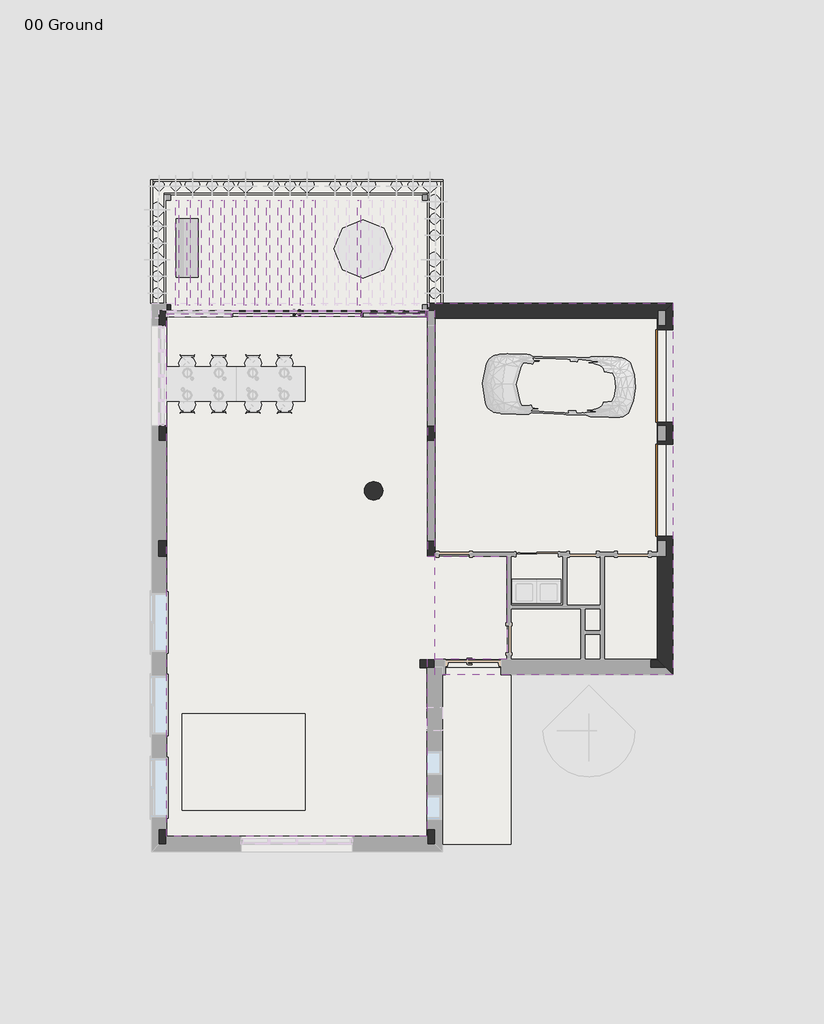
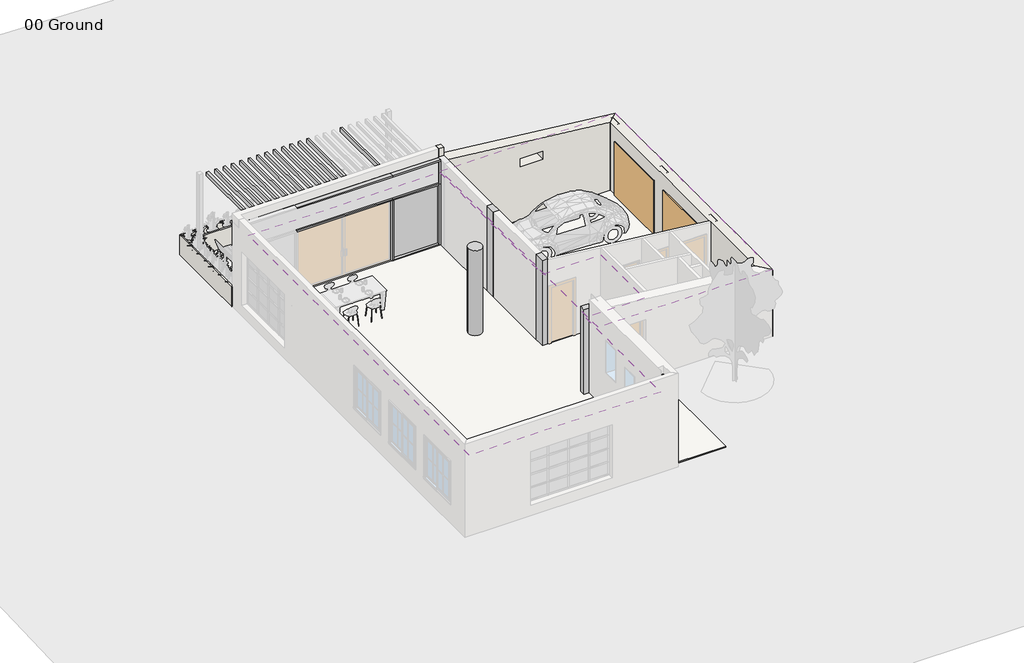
# One storey, part 3 of 4: 14 beams, 12 columns, 8 members, 8 walls, 7 slabs, 2 doors, 1 covering, 1 plate, 1 roof.
"""IFC4 building model written with IfcOpenShell, lengths in millimetres."""

from ifc_helpers import new_model, si_unit, point, frame, frame_2d, origin, origin_with_axes, place, context, project, spatial, polyline, circle_curve, trimmed, segment, composite_curve, outline, extrude, faceted_brep, transform, mapped, element, save
from ifc_brep_helpers import plane_surface, cylinder_surface, advanced_brep
from components import m_glulam_southern_pine_76x140_5a5c9036, m_glulam_southern_pine_column_127x140_dd4b0262, m_door_overhead_sectional_2400_x_2000mm_9fe30cd6, rectangular_mullion_50_x_150mm_b8963a12, rectangular_mullion_50_x_150mm_ca64fab8, rectangular_mullion_50_x_150mm_c8600b0d, rectangular_mullion_50_x_150mm_7893aaae, rectangular_mullion_50_x_150mm_57f910c3, rectangular_mullion_50_x_150mm_ec782ea6, rectangular_mullion_50_x_150mm_8753ce05, rectangular_mullion_50_x_150mm_324a6438, system_panel_glazed_18425fd7

model = new_model("IFC4")

# Units and contexts
model_context = context("Model", 3, world=origin())
ifc_project = project(units=[si_unit("LENGTHUNIT", "METRE", prefix="MILLI")], contexts=[model_context])

# Site, building, storey
site = spatial("IfcSite", under=ifc_project)
building = spatial("IfcBuilding", under=site)
storey = spatial("IfcBuildingStorey", under=building, Name="00 Ground", Elevation=0.0)

# Beams
placement = place(None, origin())
m_glulam_southern_pine_76x140_shape = m_glulam_southern_pine_76x140_5a5c9036(model_context)
element("IfcBeam", 1, ObjectType="M_Glulam-Southern Pine : 76X140", at=placement, inside=storey, context=model_context, shape_type="MappedRepresentation", body=[
    mapped(m_glulam_southern_pine_76x140_shape, transform((-6656.0190608, 7837.2898352, 3130.0), x_axis=(0.0, -1.0, 0.0), y_axis=(1.0, 0.0, 0.0), z_axis=(0.0, 0.0, 1.0))),
])
element("IfcBeam", 2, ObjectType="M_Glulam-Southern Pine : 76X140", at=placement, inside=storey, context=model_context, shape_type="MappedRepresentation", body=[
    mapped(m_glulam_southern_pine_76x140_shape, transform((-6952.3234086, 7837.2898352, 3130.0), x_axis=(0.0, -1.0, 0.0), y_axis=(1.0, 0.0, 0.0), z_axis=(0.0, 0.0, 1.0))),
])
element("IfcBeam", 3, ObjectType="M_Glulam-Southern Pine : 76X140", at=placement, inside=storey, context=model_context, shape_type="MappedRepresentation", body=[
    mapped(m_glulam_southern_pine_76x140_shape, transform((-7248.6277565, 7837.2898352, 3130.0), x_axis=(0.0, -1.0, 0.0), y_axis=(1.0, 0.0, 0.0), z_axis=(0.0, 0.0, 1.0))),
])
element("IfcBeam", 4, ObjectType="M_Glulam-Southern Pine : 76X140", at=placement, inside=storey, context=model_context, shape_type="MappedRepresentation", body=[
    mapped(m_glulam_southern_pine_76x140_shape, transform((-7544.9321043, 7837.2898352, 3130.0), x_axis=(0.0, -1.0, 0.0), y_axis=(1.0, 0.0, 0.0), z_axis=(0.0, 0.0, 1.0))),
])
element("IfcBeam", 5, ObjectType="M_Glulam-Southern Pine : 76X140", at=placement, inside=storey, context=model_context, shape_type="MappedRepresentation", body=[
    mapped(m_glulam_southern_pine_76x140_shape, transform((-7841.2364521, 7837.2898352, 3130.0), x_axis=(0.0, -1.0, 0.0), y_axis=(1.0, 0.0, 0.0), z_axis=(0.0, 0.0, 1.0))),
])
element("IfcBeam", 6, ObjectType="M_Glulam-Southern Pine : 76X140", at=placement, inside=storey, context=model_context, shape_type="MappedRepresentation", body=[
    mapped(m_glulam_southern_pine_76x140_shape, transform((-3100.3668869, 7837.2898352, 3130.0), x_axis=(0.0, -1.0, 0.0), y_axis=(1.0, 0.0, 0.0), z_axis=(0.0, 0.0, 1.0))),
])
element("IfcBeam", 7, ObjectType="M_Glulam-Southern Pine : 76X140", at=placement, inside=storey, context=model_context, shape_type="MappedRepresentation", body=[
    mapped(m_glulam_southern_pine_76x140_shape, transform((-4285.5842782, 7837.2898352, 3130.0), x_axis=(0.0, -1.0, 0.0), y_axis=(1.0, 0.0, 0.0), z_axis=(0.0, 0.0, 1.0))),
])
element("IfcBeam", 8, ObjectType="M_Glulam-Southern Pine : 76X140", at=placement, inside=storey, context=model_context, shape_type="MappedRepresentation", body=[
    mapped(m_glulam_southern_pine_76x140_shape, transform((-4581.888626, 7837.2898352, 3130.0), x_axis=(0.0, -1.0, 0.0), y_axis=(1.0, 0.0, 0.0), z_axis=(0.0, 0.0, 1.0))),
])
element("IfcBeam", 9, ObjectType="M_Glulam-Southern Pine : 76X140", at=placement, inside=storey, context=model_context, shape_type="MappedRepresentation", body=[
    mapped(m_glulam_southern_pine_76x140_shape, transform((-4878.1929738, 7837.2898352, 3130.0), x_axis=(0.0, -1.0, 0.0), y_axis=(1.0, 0.0, 0.0), z_axis=(0.0, 0.0, 1.0))),
])
element("IfcBeam", 10, ObjectType="M_Glulam-Southern Pine : 76X140", at=placement, inside=storey, context=model_context, shape_type="MappedRepresentation", body=[
    mapped(m_glulam_southern_pine_76x140_shape, transform((-5174.4973217, 7837.2898352, 3130.0), x_axis=(0.0, -1.0, 0.0), y_axis=(1.0, 0.0, 0.0), z_axis=(0.0, 0.0, 1.0))),
])
element("IfcBeam", 11, ObjectType="M_Glulam-Southern Pine : 76X140", at=placement, inside=storey, context=model_context, shape_type="MappedRepresentation", body=[
    mapped(m_glulam_southern_pine_76x140_shape, transform((-5470.8016695, 7837.2898352, 3130.0), x_axis=(0.0, -1.0, 0.0), y_axis=(1.0, 0.0, 0.0), z_axis=(0.0, 0.0, 1.0))),
])
element("IfcBeam", 12, ObjectType="M_Glulam-Southern Pine : 76X140", at=placement, inside=storey, context=model_context, shape_type="MappedRepresentation", body=[
    mapped(m_glulam_southern_pine_76x140_shape, transform((-5767.1060173, 7837.2898352, 3130.0), x_axis=(0.0, -1.0, 0.0), y_axis=(1.0, 0.0, 0.0), z_axis=(0.0, 0.0, 1.0))),
])
element("IfcBeam", 13, ObjectType="M_Glulam-Southern Pine : 76X140", at=placement, inside=storey, context=model_context, shape_type="MappedRepresentation", body=[
    mapped(m_glulam_southern_pine_76x140_shape, transform((-6063.4103652, 7837.2898352, 3130.0), x_axis=(0.0, -1.0, 0.0), y_axis=(1.0, 0.0, 0.0), z_axis=(0.0, 0.0, 1.0))),
])
element("IfcBeam", 14, ObjectType="M_Glulam-Southern Pine : 76X140", at=placement, inside=storey, context=model_context, shape_type="MappedRepresentation", body=[
    mapped(m_glulam_southern_pine_76x140_shape, transform((-6359.714713, 7837.2898352, 3130.0), x_axis=(0.0, -1.0, 0.0), y_axis=(1.0, 0.0, 0.0), z_axis=(0.0, 0.0, 1.0))),
])

# Columns
element("IfcColumn", 15, ObjectType="M_Concrete-Rectangular-Column : 200 x 400mm", at=placement, inside=storey, context=model_context, shape_type="Brep", body=[
    faceted_brep([(-8122.5407999, 6337.2898352, 0.0), (-8122.5407999, 5937.2898352, 0.0), (-8322.5407999, 5937.2898352, 0.0), (-8322.5407999, 6337.2898352, 0.0), (-8122.5407999, 6337.2898352, 3200.0), (-8122.5407999, 5937.2898352, 3200.0), (-8122.5407999, 5937.2898352, 2400.0), (-8122.5407999, 5937.2898352, 400.0), (-8322.5407999, 5937.2898352, 3200.0), (-8322.5407999, 5937.2898352, 2400.0), (-8322.5407999, 5937.2898352, 400.0), (-8322.5407999, 6124.2898352, 3200.0), (-8322.5407999, 6337.2898352, 3200.0)], [[[0, 1, 2, 3]], [[1, 0, 4, 5, 6, 7]], [[2, 1, 7, 6, 5, 8, 9, 10]], [[3, 2, 10, 9, 8, 11, 12]], [[0, 3, 12, 4]], [[5, 4, 12, 11, 8]]]),
])
element("IfcColumn", 16, ObjectType="M_Concrete-Rectangular-Column : 200 x 400mm", at=placement, inside=storey, context=model_context, shape_type="Brep", body=[
    faceted_brep([(-8122.5407999, 3337.2898352, 0.0), (-8122.5407999, 2937.2898352, 0.0), (-8322.5407999, 2937.2898352, 0.0), (-8322.5407999, 3337.2898352, 0.0), (-8122.5407999, 3337.2898352, 400.0), (-8122.5407999, 3337.2898352, 2400.0), (-8122.5407999, 3337.2898352, 3200.0), (-8122.5407999, 2937.2898352, 3200.0), (-8322.5407999, 2937.2898352, 3200.0), (-8322.5407999, 3337.2898352, 3200.0), (-8322.5407999, 3337.2898352, 2400.0), (-8322.5407999, 3337.2898352, 400.0)], [[[0, 1, 2, 3]], [[1, 0, 4, 5, 6, 7]], [[2, 1, 7, 8]], [[3, 2, 8, 9, 10, 11]], [[0, 3, 11, 10, 9, 6, 5, 4]], [[7, 6, 9, 8]]]),
])
element("IfcColumn", 17, ObjectType="M_Concrete-Rectangular-Column : 200 x 400mm", at=placement, inside=storey, context=model_context, shape_type="SweptSolid", body=[
    extrude(outline(polyline([(-8122.5407999, 337.2898352), (-8122.5407999, -62.7101648), (-8322.5407999, -62.7101648), (-8322.5407999, 337.2898352), (-8122.5407999, 337.2898352)])), origin_with_axes(), (0.0, 0.0, 1.0), 3200.0),
])
element("IfcColumn", 18, ObjectType="M_Concrete-Rectangular-Column : 200 x 400mm", at=placement, inside=storey, context=model_context, shape_type="SweptSolid", body=[
    extrude(outline(polyline([(-8122.5407999, -2662.7101648), (-8122.5407999, -3062.7101648), (-8322.5407999, -3062.7101648), (-8322.5407999, -2662.7101648), (-8122.5407999, -2662.7101648)])), origin_with_axes(), (0.0, 0.0, 1.0), 3200.0),
])
element("IfcColumn", 19, ObjectType="M_Concrete-Rectangular-Column : 200 x 400mm", at=placement, inside=storey, context=model_context, shape_type="SweptSolid", body=[
    extrude(outline(polyline([(-1122.5407999, 337.2898352), (-1122.5407999, -62.7101648), (-1322.5407999, -62.7101648), (-1322.5407999, 337.2898352), (-1122.5407999, 337.2898352)])), origin_with_axes(), (0.0, 0.0, 1.0), 3200.0),
])
element("IfcColumn", 20, ObjectType="M_Concrete-Rectangular-Column : 200 x 400mm", at=placement, inside=storey, context=model_context, shape_type="Brep", body=[
    faceted_brep([(-1522.5407999, -2762.7101648, 0.0), (-1122.5407999, -2762.7101648, 0.0), (-1122.5407999, -2948.7101648, 0.0), (-1122.5407999, -2962.7101648, 0.0), (-1335.5407999, -2962.7101648, 0.0), (-1522.5407999, -2962.7101648, 0.0), (-1522.5407999, -2762.7101648, 3200.0), (-1122.5407999, -2762.7101648, 3200.0), (-1122.5407999, -2962.7101648, 3200.0), (-1522.5407999, -2962.7101648, 3200.0)], [[[0, 1, 2, 3, 4, 5]], [[1, 0, 6, 7]], [[3, 2, 1, 7, 8]], [[5, 4, 3, 8, 9]], [[0, 5, 9, 6]], [[7, 6, 9, 8]]]),
])
element("IfcColumn", 21, ObjectType="M_Concrete-Rectangular-Column : 200 x 400mm", at=placement, inside=storey, context=model_context, shape_type="SweptSolid", body=[
    extrude(outline(polyline([(-1122.5407999, 3337.2898352), (-1122.5407999, 2937.2898352), (-1322.5407999, 2937.2898352), (-1322.5407999, 3337.2898352), (-1122.5407999, 3337.2898352)])), origin_with_axes(), (0.0, 0.0, 1.0), 3200.0),
])
element("IfcColumn", 22, ObjectType="M_Concrete-Rectangular-Column : 200 x 400mm", at=placement, inside=storey, context=model_context, shape_type="Brep", body=[
    faceted_brep([(4477.4592001, -2762.7101648, 0.0), (4677.4592001, -2762.7101648, 0.0), (4877.4592001, -2762.7101648, 0.0), (4877.4592001, -2962.7101648, 0.0), (4477.4592001, -2962.7101648, 0.0), (4477.4592001, -2762.7101648, 2519.7413096), (4677.4592001, -2762.7101648, 2519.7413096), (4877.4592001, -2762.7101648, 2519.7413096), (4877.4592001, -2962.7101648, 2519.7413096), (4477.4592001, -2962.7101648, 2519.7413096)], [[[0, 1, 2, 3, 4]], [[5, 6, 7, 2, 1, 0]], [[7, 8, 3, 2]], [[8, 9, 4, 3]], [[9, 5, 0, 4]], [[5, 9, 8, 7, 6]]]),
])
element("IfcColumn", 23, ObjectType="M_Concrete-Rectangular-Column : 200 x 400mm", at=placement, inside=storey, context=model_context, shape_type="Brep", body=[
    faceted_brep([(-8122.5407999, -7162.7101648, 0.0), (-8122.5407999, -7362.7101648, 0.0), (-8122.5407999, -7562.7101648, 0.0), (-8322.5407999, -7562.7101648, 0.0), (-8322.5407999, -7162.7101648, 0.0), (-8122.5407999, -7162.7101648, 3200.0), (-8122.5407999, -7362.7101648, 3200.0), (-8122.5407999, -7562.7101648, 3200.0), (-8322.5407999, -7562.7101648, 3200.0), (-8322.5407999, -7162.7101648, 3200.0)], [[[0, 1, 2, 3, 4]], [[2, 1, 0, 5, 6, 7]], [[3, 2, 7, 8]], [[4, 3, 8, 9]], [[0, 4, 9, 5]], [[7, 6, 5, 9, 8]]]),
])
element("IfcColumn", 24, ObjectType="M_Concrete-Rectangular-Column : 200 x 400mm", at=placement, inside=storey, context=model_context, shape_type="Brep", body=[
    faceted_brep([(-1122.5407999, -7162.7101648, 0.0), (-1122.5407999, -7562.7101648, 0.0), (-1322.5407999, -7562.7101648, 0.0), (-1322.5407999, -7362.7101648, 0.0), (-1322.5407999, -7162.7101648, 0.0), (-1122.5407999, -7162.7101648, 3200.0), (-1122.5407999, -7562.7101648, 3200.0), (-1322.5407999, -7562.7101648, 3200.0), (-1322.5407999, -7362.7101648, 3200.0), (-1322.5407999, -7162.7101648, 3200.0)], [[[0, 1, 2, 3, 4]], [[1, 0, 5, 6]], [[2, 1, 6, 7]], [[4, 3, 2, 7, 8, 9]], [[0, 4, 9, 5]], [[6, 5, 9, 8, 7]]]),
])
element("IfcColumn", 25, ObjectType="M_Concrete-Round-Column : 480mm", at=placement, inside=storey, context=model_context, shape_type="AdvancedBrep", body=[
    advanced_brep(
    [(-2962.5407999, 1637.2898352, 0.0), (-2482.5407999, 1637.2898352, 0.0), (-2962.5407999, 1637.2898352, 3200.0), (-2482.5407999, 1637.2898352, 3200.0), (-2722.1476319, 1397.2901573, 3200.0)],
    [
        (0, 1, circle_curve(frame((-2722.5407999, 1637.2898352, 0.0), z_axis=(0.0, 0.0, -1.0), x_axis=(1.0, 0.0, 0.0)), 240.0)),
        (1, 0, circle_curve(frame((-2722.5407999, 1637.2898352, 0.0), z_axis=(0.0, 0.0, -1.0), x_axis=(1.0, 0.0, 0.0)), 240.0)),
        (0, 2),
        (2, 3, circle_curve(frame((-2722.5407999, 1637.2898352, 3200.0), z_axis=(0.0, 0.0, -1.0), x_axis=(1.0, 0.0, 0.0)), 240.0)),
        (3, 1),
        (3, 4, circle_curve(frame((-2722.5407999, 1637.2898352, 3200.0), z_axis=(0.0, 0.0, -1.0), x_axis=(1.0, 0.0, 0.0)), 240.0)),
        (4, 2, circle_curve(frame((-2722.5407999, 1637.2898352, 3200.0), z_axis=(0.0, 0.0, -1.0), x_axis=(1.0, 0.0, 0.0)), 240.0)),
    ],
    [
        plane_surface(frame((-2482.5407999, 1637.2898352, 0.0), z_axis=(0.0, 0.0, -1.0), x_axis=(0.0, -1.0, 0.0))),
        cylinder_surface(frame((-2722.5407999, 1637.2898352, 0.0), z_axis=(0.0, 0.0, 1.0), x_axis=(1.0, 0.0, 0.0)), 240.0),
        plane_surface(frame((4877.4592001, 6337.2898352, 3200.0), z_axis=(0.0, 0.0, 1.0), x_axis=(1.0, 0.0, 0.0))),
    ],
    [
        (0, [[1, 2]]),
        (1, [[-1, 3, 4, 5]]),
        (1, [[-2, -5, 6, 7, -3]]),
        (2, [[-4, -7, -6]]),
    ],
),
])
m_glulam_southern_pine_column_127x140_shape = m_glulam_southern_pine_column_127x140_dd4b0262(model_context)
element("IfcColumn", 26, ObjectType="M_Glulam-Southern Pine-Column : 127x140", at=placement, inside=storey, context=model_context, shape_type="MappedRepresentation", body=[
    mapped(m_glulam_southern_pine_column_127x140_shape, transform((-8074.0407999, 6407.2898352, 0.0), x_axis=(1.0, 0.0, 0.0), y_axis=(0.0, 1.0, 0.0), z_axis=(0.0, 0.0, 1.0))),
])

# Covering
element("IfcCovering", 27, ObjectType="600 x 600mm Grid", at=placement, inside=storey, context=model_context, shape_type="SweptSolid", body=[
    extrude(outline(polyline([(746.9592001, -2749.7101648), (-1335.5407999, -2749.7101648), (-1335.5407999, -7349.7101648), (-8109.5407999, -7349.7101648), (-8109.5407999, 6242.2898352), (-1322.5407999, 6242.2898352), (-1322.5407999, -62.7101648), (746.9592001, -62.7101648), (746.9592001, -2749.7101648)]), holes=[composite_curve([segment(polyline([(-3762.5550463, 1637.3625525), (-2962.1657331, 1637.3625525)]), True, "CONTINUOUS"), segment(trimmed(circle_curve(frame_2d((-2722.147977, 1637.3625525)), 240.0177561), [point((-2962.1657331, 1637.3625525))], [point((-2722.147977, 1397.3447964))], False, "CARTESIAN"), True, "CONTINUOUS"), segment(polyline([(-2722.147977, 1397.3447964), (-2709.6572376, 597.4130295)]), True, "CONTINUOUS"), segment(trimmed(circle_curve(frame_2d((-2722.5259059, 1637.3625525)), 1040.0291404), [point((-2709.6572376, 597.4130295))], [point((-3762.5550463, 1637.3625525))], True, "CARTESIAN"), True, "CONTINUOUS")], self_intersect=False)]), frame((0.0, 0.0, 2700.0), z_axis=(0.0, 0.0, 1.0), x_axis=(1.0, 0.0, 0.0)), (0.0, 0.0, 1.0), 52.0),
])

# Doors
m_door_overhead_sectional_2400_x_2000mm_shape = m_door_overhead_sectional_2400_x_2000mm_9fe30cd6(model_context)
element("IfcDoor", 28, ObjectType="M_Door-Overhead-Sectional : 2400 x 2000mm", at=placement, inside=storey, context=model_context, shape_type="MappedRepresentation", body=[
    mapped(m_door_overhead_sectional_2400_x_2000mm_shape, transform((4863.4592001, 4624.2898352, 0.0), x_axis=(0.0, -1.0, 0.0), y_axis=(1.0, 0.0, 0.0), z_axis=(0.0, 0.0, 1.0))),
])
element("IfcDoor", 29, ObjectType="M_Door-Overhead-Sectional : 2400 x 2000mm", at=placement, inside=storey, context=model_context, shape_type="MappedRepresentation", body=[
    mapped(m_door_overhead_sectional_2400_x_2000mm_shape, transform((4863.4592001, 1650.2898352, 0.0), x_axis=(0.0, -1.0, 0.0), y_axis=(1.0, 0.0, 0.0), z_axis=(0.0, 0.0, 1.0))),
])

# Members
rectangular_mullion_50_x_150mm_shape = rectangular_mullion_50_x_150mm_b8963a12(model_context)
element("IfcMember", 30, ObjectType="Rectangular Mullion : 50 x 150mm", at=placement, inside=storey, context=model_context, shape_type="MappedRepresentation", body=[
    mapped(rectangular_mullion_50_x_150mm_shape, transform((-2997.5407999, 6242.2898352, 0.0), x_axis=(0.0, 0.0, -1.0), y_axis=(0.0, -1.0, 0.0), z_axis=(-1.0, 0.0, 0.0))),
])
rectangular_mullion_50_x_150mm_2_shape = rectangular_mullion_50_x_150mm_ca64fab8(model_context)
element("IfcMember", 31, ObjectType="Rectangular Mullion : 50 x 150mm", at=placement, inside=storey, context=model_context, shape_type="MappedRepresentation", body=[
    mapped(rectangular_mullion_50_x_150mm_2_shape, transform((-3022.5407999, 6242.2898352, 3200.0), x_axis=(0.0, 0.0, 1.0), y_axis=(0.0, -1.0, 0.0), z_axis=(1.0, 0.0, 0.0))),
])
rectangular_mullion_50_x_150mm_3_shape = rectangular_mullion_50_x_150mm_c8600b0d(model_context)
element("IfcMember", 32, ObjectType="Rectangular Mullion : 50 x 150mm", at=placement, inside=storey, context=model_context, shape_type="MappedRepresentation", body=[
    mapped(rectangular_mullion_50_x_150mm_3_shape, transform((-1322.5407999, 6242.2898352, 3200.0), x_axis=(0.0, 0.0, 1.0), y_axis=(0.0, -1.0, 0.0), z_axis=(1.0, 0.0, 0.0))),
])
rectangular_mullion_50_x_150mm_4_shape = rectangular_mullion_50_x_150mm_7893aaae(model_context)
element("IfcMember", 33, ObjectType="Rectangular Mullion : 50 x 150mm", at=placement, inside=storey, context=model_context, shape_type="MappedRepresentation", body=[
    mapped(rectangular_mullion_50_x_150mm_4_shape, transform((-1372.5407999, 6242.2898352, 2300.0), x_axis=(0.0, 0.0, 1.0), y_axis=(0.0, -1.0, 0.0), z_axis=(1.0, 0.0, 0.0))),
])
rectangular_mullion_50_x_150mm_5_shape = rectangular_mullion_50_x_150mm_57f910c3(model_context)
element("IfcMember", 34, ObjectType="Rectangular Mullion : 50 x 150mm", at=placement, inside=storey, context=model_context, shape_type="MappedRepresentation", body=[
    mapped(rectangular_mullion_50_x_150mm_5_shape, transform((-3022.5407999, 6242.2898352, 2300.0), x_axis=(0.0, 0.0, 1.0), y_axis=(0.0, -1.0, 0.0), z_axis=(1.0, 0.0, 0.0))),
])
rectangular_mullion_50_x_150mm_6_shape = rectangular_mullion_50_x_150mm_ec782ea6(model_context)
element("IfcMember", 35, ObjectType="Rectangular Mullion : 50 x 150mm", at=placement, inside=storey, context=model_context, shape_type="MappedRepresentation", body=[
    mapped(rectangular_mullion_50_x_150mm_6_shape, transform((-3022.5407999, 6242.2898352, 0.0), x_axis=(1.0, 0.0, 0.0), y_axis=(0.0, -1.0, 0.0), z_axis=(0.0, 0.0, -1.0))),
])
rectangular_mullion_50_x_150mm_7_shape = rectangular_mullion_50_x_150mm_8753ce05(model_context)
element("IfcMember", 36, ObjectType="Rectangular Mullion : 50 x 150mm", at=placement, inside=storey, context=model_context, shape_type="MappedRepresentation", body=[
    mapped(rectangular_mullion_50_x_150mm_7_shape, transform((-1322.5407999, 6242.2898352, 0.0), x_axis=(1.0, 0.0, 0.0), y_axis=(0.0, -1.0, 0.0), z_axis=(0.0, 0.0, -1.0))),
])
rectangular_mullion_50_x_150mm_8_shape = rectangular_mullion_50_x_150mm_324a6438(model_context)
element("IfcMember", 37, ObjectType="Rectangular Mullion : 50 x 150mm", at=placement, inside=storey, context=model_context, shape_type="MappedRepresentation", body=[
    mapped(rectangular_mullion_50_x_150mm_8_shape, transform((-1322.5407999, 6242.2898352, 2300.0), x_axis=(1.0, 0.0, 0.0), y_axis=(0.0, -1.0, 0.0), z_axis=(0.0, 0.0, -1.0))),
])

# Plate
system_panel_glazed_shape = system_panel_glazed_18425fd7(model_context)
element("IfcPlate", 38, ObjectType="System Panel : Glazed", at=placement, inside=storey, context=model_context, shape_type="MappedRepresentation", body=[
    mapped(system_panel_glazed_shape, transform((-2185.0407999, 6242.2898352, 50.0), x_axis=(1.0, 0.0, 0.0), y_axis=(0.0, 1.0, 0.0), z_axis=(0.0, 0.0, 1.0))),
])

# Roof
element("IfcRoof", 39, ObjectType="Warm Roof - Timber", at=placement, inside=storey, context=model_context, shape_type="SweptSolid", body=[
    extrude(outline(polyline([(2839.9189519, 5062.4592001), (3499.9189519, -1122.5407999), (3160.0, -1122.5407999), (2500.0, 5062.4592001), (2839.9189519, 5062.4592001)])), frame((0.0, -3147.7101648, 0.0), z_axis=(0.0, 1.0, 0.0), x_axis=(0.0, 0.0, 1.0)), (0.0, 0.0, 1.0), 9670.0),
])

# Slabs
element("IfcSlab", 40, ObjectType="DECK FLOOR TILES 40mm", at=placement, inside=storey, context=model_context, shape_type="SweptSolid", body=[
    extrude(outline(polyline([(-1322.5407999, 6337.2898352), (-8122.5407999, 6337.2898352), (-8122.5407999, 9337.2898352), (-1322.5407999, 9337.2898352), (-1322.5407999, 6337.2898352)])), origin_with_axes(), (0.0, 0.0, 1.0), 40.0),
])
element("IfcSlab", 41, ObjectType="DECK FLOOR TILES 40mm", at=placement, inside=storey, context=model_context, shape_type="SweptSolid", body=[
    extrude(outline(polyline([(-937.5407999, -7562.7101648), (-937.5407999, -3147.7101648), (-857.5407999, -3147.7101648), (-857.5407999, -2962.7101648), (592.4592001, -2962.7101648), (592.4592001, -3147.7101648), (846.9592001, -3147.7101648), (846.9592001, -7562.7101648), (-937.5407999, -7562.7101648)])), origin_with_axes(), (0.0, 0.0, 1.0), 40.0),
])
element("IfcSlab", 42, ObjectType="Floor Parquet 15mm", at=placement, inside=storey, context=model_context, shape_type="SweptSolid", body=[
    extrude(outline(polyline([(-8109.5407999, 6167.2898352), (-1322.5407999, 6167.2898352), (-1322.5407999, -62.7101648), (746.9592001, -62.7101648), (746.9592001, -2749.7101648), (-1335.5407999, -2749.7101648), (-1335.5407999, -7349.7101648), (-8109.5407999, -7349.7101648), (-8109.5407999, 6167.2898352)])), origin_with_axes(), (0.0, 0.0, 1.0), 15.0),
])
element("IfcSlab", 43, ObjectType="Generic 300mm", at=placement, inside=storey, context=model_context, shape_type="Brep", body=[
    faceted_brep([(-8322.5407999, 6337.2898352, -300.0), (-8122.5407999, 6337.2898352, -300.0), (-1322.5407999, 6337.2898352, -300.0), (-1122.5407999, 6337.2898352, -300.0), (4677.4592001, 6337.2898352, -300.0), (4877.4592001, 6337.2898352, -300.0), (4877.4592001, 5937.2898352, -300.0), (4877.4592001, 3337.2898352, -300.0), (4877.4592001, 2937.2898352, -300.0), (4877.4592001, 337.2898352, -300.0), (4877.4592001, -62.7101648, -300.0), (4877.4592001, -2762.7101648, -300.0), (4877.4592001, -2962.7101648, -300.0), (4477.4592001, -2962.7101648, -300.0), (-1122.5407999, -2962.7101648, -300.0), (-1122.5407999, -7162.7101648, -300.0), (-1122.5407999, -7562.7101648, -300.0), (-1322.5407999, -7562.7101648, -300.0), (-8122.5407999, -7562.7101648, -300.0), (-8322.5407999, -7562.7101648, -300.0), (-8322.5407999, -7162.7101648, -300.0), (-8322.5407999, -3062.7101648, -300.0), (-8322.5407999, -2662.7101648, -300.0), (-8322.5407999, -62.7101648, -300.0), (-8322.5407999, 337.2898352, -300.0), (-8322.5407999, 2937.2898352, -300.0), (-8322.5407999, 3337.2898352, -300.0), (-8322.5407999, 5937.2898352, -300.0), (-8322.5407999, 6337.2898352, 0.0), (-8322.5407999, 5937.2898352, 0.0), (-8322.5407999, 3337.2898352, 0.0), (-8322.5407999, 2937.2898352, 0.0), (-8322.5407999, 337.2898352, 0.0), (-8322.5407999, -62.7101648, 0.0), (-8322.5407999, -2662.7101648, 0.0), (-8322.5407999, -3062.7101648, 0.0), (-8322.5407999, -7162.7101648, 0.0), (-8322.5407999, -7562.7101648, 0.0), (-8122.5407999, -7562.7101648, 0.0), (-1322.5407999, -7562.7101648, 0.0), (-1122.5407999, -7562.7101648, 0.0), (-1122.5407999, -7162.7101648, 0.0), (-1122.5407999, -2962.7101648, 0.0), (4477.4592001, -2962.7101648, 0.0), (4877.4592001, -2962.7101648, 0.0), (4877.4592001, -2762.7101648, 0.0), (4877.4592001, -62.7101648, 0.0), (4877.4592001, 337.2898352, 0.0), (4877.4592001, 2937.2898352, 0.0), (4877.4592001, 3337.2898352, 0.0), (4877.4592001, 5937.2898352, 0.0), (4877.4592001, 6337.2898352, 0.0), (4677.4592001, 6337.2898352, 0.0), (-1122.5407999, 6337.2898352, 0.0), (-1322.5407999, 6337.2898352, 0.0), (-8122.5407999, 6337.2898352, 0.0)], [[[0, 1, 2, 3, 4, 5, 6, 7, 8, 9, 10, 11, 12, 13, 14, 15, 16, 17, 18, 19, 20, 21, 22, 23, 24, 25, 26, 27]], [[28, 29, 30, 31, 32, 33, 34, 35, 36, 37, 38, 39, 40, 41, 42, 43, 44, 45, 46, 47, 48, 49, 50, 51, 52, 53, 54, 55]], [[5, 4, 3, 2, 1, 0, 28, 55, 54, 53, 52, 51]], [[12, 11, 10, 9, 8, 7, 6, 5, 51, 50, 49, 48, 47, 46, 45, 44]], [[14, 13, 12, 44, 43, 42]], [[16, 15, 14, 42, 41, 40]], [[19, 18, 17, 16, 40, 39, 38, 37]], [[0, 27, 26, 25, 24, 23, 22, 21, 20, 19, 37, 36, 35, 34, 33, 32, 31, 30, 29, 28]]]),
])
element("IfcSlab", 44, ObjectType="TERRACE SLAB 150mm", at=placement, inside=storey, context=model_context, shape_type="SweptSolid", body=[
    extrude(outline(polyline([(-967.5407999, 9692.2898352), (-967.5407999, 6522.2898352), (-1322.5407999, 6522.2898352), (-1322.5407999, 6337.2898352), (-8109.5407999, 6337.2898352), (-8109.5407999, 6359.7898352), (-8477.5407999, 6359.7898352), (-8477.5407999, 9692.2898352), (-967.5407999, 9692.2898352)])), frame((0.0, 0.0, -150.0), z_axis=(0.0, 0.0, 1.0), x_axis=(1.0, 0.0, 0.0)), (0.0, 0.0, 1.0), 150.0),
])
element("IfcSlab", 45, ObjectType="TERRACE SLAB 150mm", at=placement, inside=storey, context=model_context, shape_type="SweptSolid", body=[
    extrude(outline(polyline([(846.9592001, -2962.7101648), (846.9592001, -7562.7101648), (-1122.5407999, -7562.7101648), (-1122.5407999, -2962.7101648), (846.9592001, -2962.7101648)])), frame((0.0, 0.0, -150.0), z_axis=(0.0, 0.0, 1.0), x_axis=(1.0, 0.0, 0.0)), (0.0, 0.0, 1.0), 150.0),
])
element("IfcSlab", 46, ObjectType="Teppich 10mm", at=placement, inside=storey, context=model_context, shape_type="SweptSolid", body=[
    extrude(outline(polyline([(-7703.7907999, -4166.2101648), (-4503.7907999, -4166.2101648), (-4503.7907999, -6666.2101648), (-7703.7907999, -6666.2101648), (-7703.7907999, -4166.2101648)])), frame((0.0, 0.0, 15.0), z_axis=(0.0, 0.0, 1.0), x_axis=(1.0, 0.0, 0.0)), (0.0, 0.0, 1.0), 10.0),
])

# Walls
element("IfcWall", 47, ObjectType="45T-25linea", at=placement, inside=storey, context=model_context, shape_type="SweptSolid", body=[
    extrude(outline(polyline([(-967.5407999, 6337.2898352), (-1122.5407999, 6337.2898352), (-1122.5407999, 6382.2898352), (-967.5407999, 6382.2898352), (-967.5407999, 6337.2898352)])), origin_with_axes(), (0.0, 0.0, 1.0), 750.0),
])
element("IfcWall", 48, ObjectType="45T-25linea", at=placement, inside=storey, context=model_context, shape_type="Brep", body=[
    faceted_brep([(-8477.5407999, 6522.2898352, 0.0), (-8477.5407999, 9692.2898352, 0.0), (-8477.5407999, 9737.2898352, 0.0), (-8477.5407999, 9737.2898352, 750.0), (-8477.5407999, 9692.2898352, 750.0), (-8477.5407999, 6522.2898352, 750.0), (-8522.5407999, 6522.2898352, 0.0), (-8522.5407999, 6522.2898352, 750.0), (-8522.5407999, 9737.2898352, 750.0), (-8522.5407999, 9737.2898352, 0.0)], [[[0, 1, 2, 3, 4, 5]], [[6, 7, 8, 9]], [[2, 1, 0, 6, 9]], [[5, 4, 3, 8, 7]], [[0, 5, 7, 6]], [[3, 2, 9, 8]]]),
])
element("IfcWall", 49, ObjectType="45T-25linea", at=placement, inside=storey, context=model_context, shape_type="Brep", body=[
    faceted_brep([(-8477.5407999, 9692.2898352, 0.0), (-967.5407999, 9692.2898352, 0.0), (-922.5407999, 9692.2898352, 0.0), (-922.5407999, 9692.2898352, 750.0), (-967.5407999, 9692.2898352, 750.0), (-8477.5407999, 9692.2898352, 750.0), (-8477.5407999, 9737.2898352, 0.0), (-8477.5407999, 9737.2898352, 750.0), (-922.5407999, 9737.2898352, 750.0), (-922.5407999, 9737.2898352, 0.0)], [[[0, 1, 2, 3, 4, 5]], [[6, 7, 8, 9]], [[2, 1, 0, 6, 9]], [[5, 4, 3, 8, 7]], [[0, 5, 7, 6]], [[3, 2, 9, 8]]]),
])
element("IfcWall", 50, ObjectType="45T-25linea", at=placement, inside=storey, context=model_context, shape_type="SweptSolid", body=[
    extrude(outline(polyline([(-967.5407999, 6522.2898352), (-967.5407999, 9692.2898352), (-922.5407999, 9692.2898352), (-922.5407999, 6522.2898352), (-967.5407999, 6522.2898352)])), origin_with_axes(), (0.0, 0.0, 1.0), 750.0),
])
element("IfcWall", 51, ObjectType="45T-25linea", at=placement, inside=storey, context=model_context, shape_type="Brep", body=[
    faceted_brep([(-1277.5407999, 6522.2898352, 0.0), (-1277.5407999, 9382.2898352, 0.0), (-1277.5407999, 9382.2898352, 750.0), (-1277.5407999, 6522.2898352, 750.0), (-1322.5407999, 6522.2898352, 0.0), (-1322.5407999, 6522.2898352, 750.0), (-1322.5407999, 9337.2898352, 750.0), (-1322.5407999, 9382.2898352, 750.0), (-1322.5407999, 9382.2898352, 0.0), (-1322.5407999, 9337.2898352, 0.0)], [[[0, 1, 2, 3]], [[4, 5, 6, 7, 8, 9]], [[1, 0, 4, 9, 8]], [[3, 2, 7, 6, 5]], [[0, 3, 5, 4]], [[2, 1, 8, 7]]]),
])
element("IfcWall", 52, ObjectType="45T-25linea", at=placement, inside=storey, context=model_context, shape_type="Brep", body=[
    faceted_brep([(-1322.5407999, 9382.2898352, 0.0), (-8182.5407999, 9382.2898352, 0.0), (-8182.5407999, 9382.2898352, 750.0), (-1322.5407999, 9382.2898352, 750.0), (-1322.5407999, 9337.2898352, 0.0), (-1322.5407999, 9337.2898352, 750.0), (-8137.5407999, 9337.2898352, 750.0), (-8182.5407999, 9337.2898352, 750.0), (-8182.5407999, 9337.2898352, 0.0), (-8137.5407999, 9337.2898352, 0.0)], [[[0, 1, 2, 3]], [[4, 5, 6, 7, 8, 9]], [[1, 0, 4, 9, 8]], [[3, 2, 7, 6, 5]], [[0, 3, 5, 4]], [[2, 1, 8, 7]]]),
])
element("IfcWall", 53, ObjectType="Exterior - Brick on CMU", at=placement, inside=storey, context=model_context, shape_type="Brep", body=[
    faceted_brep([(5062.4592001, -3147.7101648, 2500.0), (5062.4592001, -3147.7101648, 0.0), (5062.4592001, 450.2898352, 0.0), (5062.4592001, 450.2898352, 2000.0), (5062.4592001, 2850.2898352, 2000.0), (5062.4592001, 2850.2898352, 0.0), (5062.4592001, 3424.2898352, 0.0), (5062.4592001, 3424.2898352, 2000.0), (5062.4592001, 5824.2898352, 2000.0), (5062.4592001, 5824.2898352, 0.0), (5062.4592001, 6522.2898352, 0.0), (5062.4592001, 6522.2898352, 2500.0), (4664.4592001, -2749.7101648, 0.0), (4664.4592001, -2749.7101648, 2542.4704931), (4664.4592001, -62.7101648, 2542.4704931), (4664.4592001, 37.2898352, 2542.4704931), (4664.4592001, 6124.2898352, 2542.4704931), (4664.4592001, 6124.2898352, 0.0), (4664.4592001, 5824.2898352, 0.0), (4664.4592001, 5824.2898352, 2000.0), (4664.4592001, 3424.2898352, 2000.0), (4664.4592001, 3424.2898352, 0.0), (4664.4592001, 2850.2898352, 0.0), (4664.4592001, 2850.2898352, 2000.0), (4664.4592001, 450.2898352, 2000.0), (4664.4592001, 450.2898352, 0.0), (4664.4592001, 37.2898352, 0.0), (4664.4592001, -62.7101648, 0.0), (4877.4592001, -2962.7101648, 0.0), (4677.4592001, -2762.7101648, 0.0), (4877.4592001, 337.2898352, 0.0), (4677.4592001, 337.2898352, 0.0), (4677.4592001, -62.7101648, 0.0), (4877.4592001, -62.7101648, 0.0), (4677.4592001, 6137.2898352, 0.0), (4677.4592001, 5937.2898352, 0.0), (4877.4592001, 5937.2898352, 0.0), (4877.4592001, 6337.2898352, 0.0), (4877.4592001, 2937.2898352, 0.0), (4877.4592001, 3337.2898352, 0.0), (4677.4592001, 3337.2898352, 0.0), (4677.4592001, 2937.2898352, 0.0), (4877.4592001, 6337.2898352, 2519.7413096), (4677.4592001, 6137.2898352, 2519.7413096), (4877.4592001, 2937.2898352, 2519.7413096), (4877.4592001, 3337.2898352, 2519.7413096), (4677.4592001, 2937.2898352, 2519.7413096), (4677.4592001, 3337.2898352, 2519.7413096), (4677.4592001, 337.2898352, 2519.7413096), (4877.4592001, 337.2898352, 2519.7413096), (4877.4592001, -62.7101648, 2519.7413096), (4677.4592001, -62.7101648, 2519.7413096), (4877.4592001, 5937.2898352, 2519.7413096), (4677.4592001, 5937.2898352, 2519.7413096)], [[[0, 1, 2, 3, 4, 5, 6, 7, 8, 9, 10, 11]], [[12, 13, 14, 15, 16, 17, 18, 19, 20, 21, 22, 23, 24, 25, 26, 27]], [[1, 28, 29, 12, 27, 26, 25, 2], [30, 31, 32, 33]], [[10, 9, 18, 17, 34, 35, 36, 37]], [[21, 6, 5, 22], [38, 39, 40, 41]], [[1, 0, 13, 12, 29, 28]], [[11, 10, 37, 42]], [[17, 16, 42, 43, 34]], [[44, 45, 39, 38]], [[44, 38, 41, 46]], [[39, 45, 47, 40]], [[48, 31, 30, 49]], [[49, 30, 33, 50]], [[32, 51, 50, 33]], [[52, 42, 37, 36]], [[52, 36, 35, 53]], [[46, 41, 40, 47]], [[48, 51, 32, 31]], [[53, 35, 34, 43]], [[0, 11, 42, 16, 15, 14, 13]], [[45, 44, 46, 47]], [[51, 48, 49, 50]], [[42, 52, 53, 43]], [[20, 7, 6, 21]], [[7, 20, 19, 8]], [[8, 19, 18, 9]], [[24, 3, 2, 25]], [[3, 24, 23, 4]], [[4, 23, 22, 5]]]),
])
element("IfcWall", 54, ObjectType="Exterior - Brick on CMU", at=placement, inside=storey, context=model_context, shape_type="Brep", body=[
    faceted_brep([(5062.4592001, 6522.2898352, 0.0), (-922.5407999, 6522.2898352, 0.0), (-967.5407999, 6522.2898352, 0.0), (-1277.5407999, 6522.2898352, 0.0), (-1322.5407999, 6522.2898352, 0.0), (-1322.5407999, 6522.2898352, 750.0), (-1322.5407999, 6522.2898352, 3200.0), (-1300.0407999, 6522.2898352, 3200.0), (-1300.0407999, 6522.2898352, 3500.0), (-1122.5407999, 6522.2898352, 3500.0), (-1122.5407999, 6522.2898352, 3160.0), (5062.4592001, 6522.2898352, 2500.0), (2271.4592001, 6522.2898352, 2300.0), (1471.4592001, 6522.2898352, 2300.0), (1471.4592001, 6522.2898352, 2000.0), (2271.4592001, 6522.2898352, 2000.0), (4664.4592001, 6124.2898352, 0.0), (4664.4592001, 6124.2898352, 2542.4704931), (-1122.5407999, 6124.2898352, 3160.0), (-1122.5407999, 6124.2898352, 0.0), (1471.4592001, 6124.2898352, 2300.0), (2271.4592001, 6124.2898352, 2300.0), (2271.4592001, 6124.2898352, 2000.0), (1471.4592001, 6124.2898352, 2000.0), (4877.4592001, 6337.2898352, 0.0), (4677.4592001, 6337.2898352, 0.0), (4677.4592001, 6137.2898352, 0.0), (-1122.5407999, 6337.2898352, 0.0), (-1322.5407999, 6337.2898352, 0.0), (4877.4592001, 6337.2898352, 2519.7413096), (4677.4592001, 6137.2898352, 2519.7413096), (-1122.5407999, 6337.2898352, 3160.0), (-1122.5407999, 6337.2898352, 3200.0), (-1122.5407999, 6337.2898352, 3500.0), (-1300.0407999, 6337.2898352, 3500.0), (-1300.0407999, 6337.2898352, 3200.0), (-1322.5407999, 6337.2898352, 3200.0), (4677.4592001, 6337.2898352, 2519.7413096)], [[[0, 1, 2, 3, 4, 5, 6, 7, 8, 9, 10, 11], [12, 13, 14, 15]], [[16, 17, 18, 19], [20, 21, 22, 23]], [[4, 3, 2, 1, 0, 24, 25, 26, 16, 19, 27, 28]], [[0, 11, 29, 24]], [[17, 16, 26, 30, 29]], [[19, 18, 31, 27]], [[28, 27, 31, 32, 33, 34, 35, 36]], [[25, 37, 30, 26]], [[37, 25, 24, 29]], [[37, 29, 30]], [[8, 7, 35, 34]], [[7, 6, 36, 35]], [[4, 28, 36, 6, 5]], [[8, 34, 33, 9]], [[10, 9, 33, 32, 31]], [[11, 10, 31, 18, 17, 29]], [[12, 21, 20, 13]], [[14, 23, 22, 15]], [[21, 12, 15, 22]], [[13, 20, 23, 14]]]),
])

save(model, "model.ifc")
